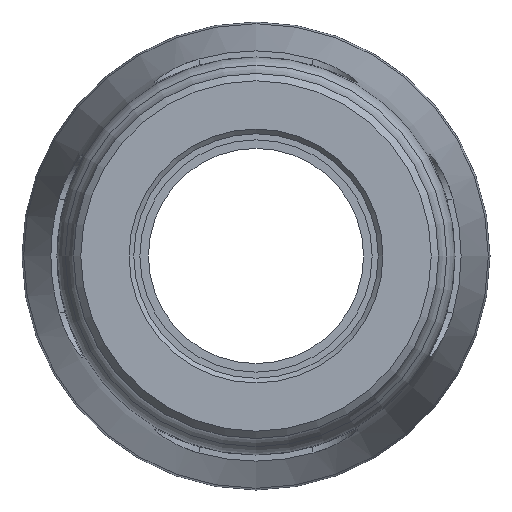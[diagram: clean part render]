
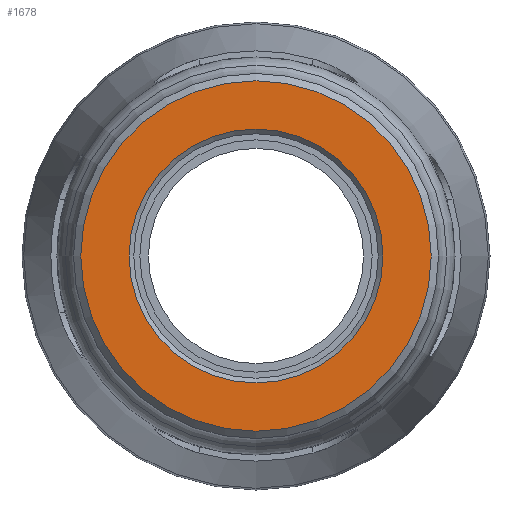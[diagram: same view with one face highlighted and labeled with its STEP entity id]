
A CAD part, left-side view. The second image highlights one B-rep face of the part: STEP entity #1678.
In plain terms, the highlighted planar face has unit normal (-1, 0, 0).
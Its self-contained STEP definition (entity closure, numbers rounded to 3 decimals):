
#23=FACE_BOUND('',#400,.T.);
#55=PLANE('',#1829);
#291=FACE_OUTER_BOUND('',#399,.T.);
#399=EDGE_LOOP('',(#1155));
#400=EDGE_LOOP('',(#1156));
#543=CIRCLE('',#1828,15.726);
#544=CIRCLE('',#1830,21.711);
#714=VERTEX_POINT('',#2896);
#715=VERTEX_POINT('',#2899);
#885=EDGE_CURVE('',#714,#714,#543,.T.);
#886=EDGE_CURVE('',#715,#715,#544,.T.);
#1155=ORIENTED_EDGE('',*,*,#886,.F.);
#1156=ORIENTED_EDGE('',*,*,#885,.F.);
#1678=ADVANCED_FACE('',(#291,#23),#55,.T.);
#1828=AXIS2_PLACEMENT_3D('',#2897,#2109,#2110);
#1829=AXIS2_PLACEMENT_3D('',#2898,#2111,#2112);
#1830=AXIS2_PLACEMENT_3D('',#2900,#2113,#2114);
#2109=DIRECTION('center_axis',(-1.,0.,0.));
#2110=DIRECTION('ref_axis',(0.,-1.,0.));
#2111=DIRECTION('center_axis',(-1.,0.,0.));
#2112=DIRECTION('ref_axis',(0.,0.,1.));
#2113=DIRECTION('center_axis',(1.,0.,0.));
#2114=DIRECTION('ref_axis',(0.,-1.,0.));
#2896=CARTESIAN_POINT('',(0.,15.726,0.));
#2897=CARTESIAN_POINT('Origin',(0.,0.,0.));
#2898=CARTESIAN_POINT('Origin',(0.,22.62,0.));
#2899=CARTESIAN_POINT('',(0.,21.711,0.));
#2900=CARTESIAN_POINT('Origin',(0.,0.,0.));
